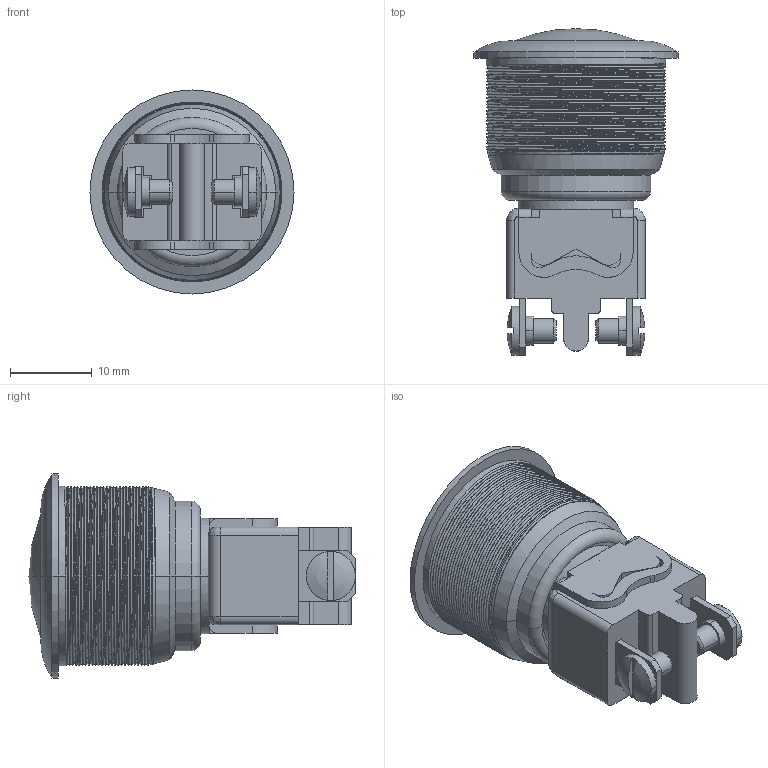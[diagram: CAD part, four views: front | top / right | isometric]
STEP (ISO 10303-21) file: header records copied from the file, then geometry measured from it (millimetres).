
FILE_DESCRIPTION((''),'2;1');
FILE_NAME('AV021202A970_','2011-08-01T',('rboyer'),(''),'PRO/ENGINEER BY PARAMETRIC TECHNOLOGY CORPORATION, 2009440','PRO/ENGINEER BY PARAMETRIC TECHNOLOGY CORPORATION, 2009440','');
FILE_SCHEMA(('CONFIG_CONTROL_DESIGN'));
Length unit declared in the file: millimetre
Products named in the file (1): AV021202A970_
Bounding box: 25 x 40 x 25 mm (x, y, z)
Volume: 6327.3 mm3; surface area: 8272.6 mm2
Topology: 2 solids, 2 shells, 465 faces, 1307 edges, 841 vertices
Faces by surface type: plane 202, cylinder 159, bspline 52, torus 23, cone 23, sphere 6
Entity records: 36814 total; most frequent: CARTESIAN_POINT 25271, ORIENTED_EDGE 2610, DIRECTION 2113, EDGE_CURVE 1305, VERTEX_POINT 841, AXIS2_PLACEMENT_3D 706, VECTOR 701, LINE 701
